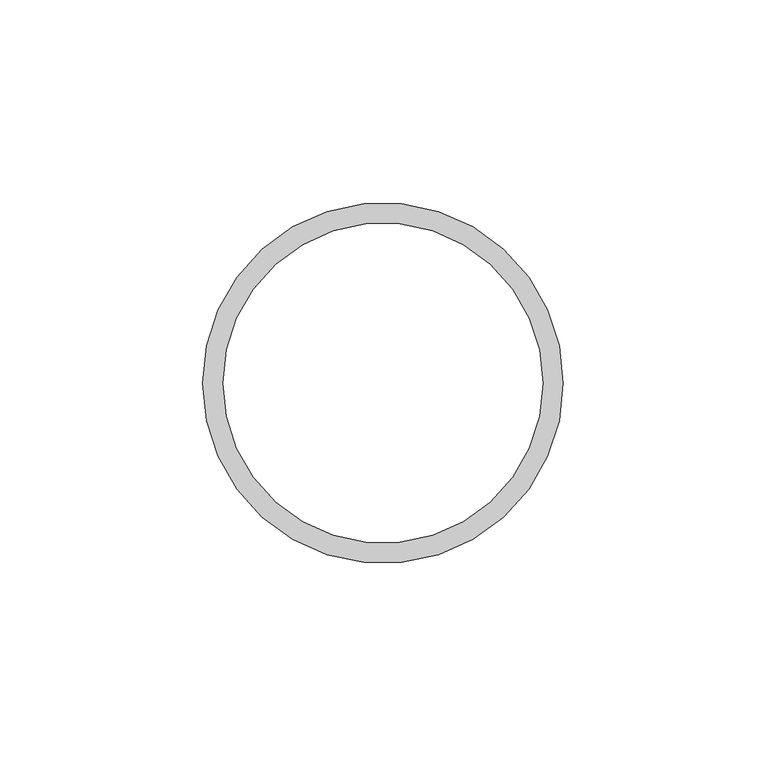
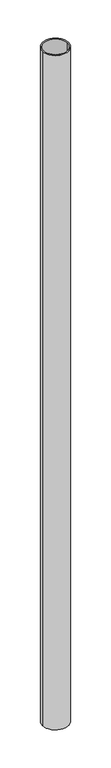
"""IFC4 building model written with IfcOpenShell, lengths in millimetres: column geometry, NLRS_28_SC_TLB_kolom buis_generiek_ISR : ø88.9x5 ."""

import ifcopenshell
import ifcopenshell.guid

model = None  # the IFC model being written
_history = None  # IfcOwnerHistory: only IFC2X3 demands one
_inside = {}  # id of a spatial element -> (the spatial element, [elements in it])
_under = {}  # id of a project, library or spatial element -> (it, [spatial elements below it])
_declared = {}  # id of a project -> (the project, [libraries it declares])
_typed = {}  # id of a type object -> (the type object, [elements of that type])
_made_of = {}  # id of a material, layer set ... -> (it, [elements and type objects made of it])


def new_model(schema):
    """Start an empty IFC model of exactly this schema.

    Asked for "IFC4X3", IfcOpenShell would pick the latest addendum, in which some entities
    have other attributes; the version numbers below select the first issue.
    IFC2X3 requires an IfcOwnerHistory on every rooted entity: one is made here for all.
    """
    global model, _history
    if schema == "IFC4X3":
        model = ifcopenshell.file(schema_version=(4, 3, 0, 0))
    else:
        model = ifcopenshell.file(schema=schema)
    _inside.clear()
    _under.clear()
    _declared.clear()
    _typed.clear()
    _made_of.clear()
    _history = None
    if model.schema == "IFC2X3":
        org = make("IfcOrganization", Name="unknown")
        user = make(
            "IfcPersonAndOrganization",
            ThePerson=make("IfcPerson", FamilyName="unknown"),
            TheOrganization=org,
        )
        app = make(
            "IfcApplication",
            ApplicationDeveloper=org,
            Version="unknown",
            ApplicationFullName="unknown",
            ApplicationIdentifier="unknown",
        )
        _history = make(
            "IfcOwnerHistory",
            OwningUser=user,
            OwningApplication=app,
            ChangeAction="ADDED",
            CreationDate=0,
        )
    return model


def make(cls, **values):
    """One entity of the class cls with the attributes given. An attribute that is None is left unset."""
    return model.create_entity(
        cls, **{name: value for name, value in values.items() if value is not None}
    )


def rooted(cls, **values):
    """An entity with a GlobalId (a new one), such as an element, a storey or a relation."""
    return make(cls, GlobalId=ifcopenshell.guid.new(), OwnerHistory=_history, **values)


def si_unit(unit_type, name, prefix=None):
    """IfcSIUnit, for example si_unit("LENGTHUNIT", "METRE", prefix="MILLI")."""
    return make("IfcSIUnit", UnitType=unit_type, Prefix=prefix, Name=name)


def assignment(units):
    """IfcUnitAssignment: the units of a project."""
    return None if units is None else make("IfcUnitAssignment", Units=units)


def point(xyz):
    """IfcCartesianPoint."""
    return None if xyz is None else make("IfcCartesianPoint", Coordinates=xyz)


def direction(xyz):
    """IfcDirection."""
    return None if xyz is None else make("IfcDirection", DirectionRatios=xyz)


def frame(location, z_axis=None, x_axis=None):
    """IfcAxis2Placement3D, a coordinate frame: its origin and axes. An axis left out is left unset."""
    return make(
        "IfcAxis2Placement3D",
        Location=point(location),
        Axis=direction(z_axis),
        RefDirection=direction(x_axis),
    )


def frame_2d(location, x_axis=None):
    """IfcAxis2Placement2D, a coordinate frame in the plane: its origin and x axis."""
    return make(
        "IfcAxis2Placement2D", Location=point(location), RefDirection=direction(x_axis)
    )


def origin():
    """The frame at (0, 0, 0) with its axes left unset."""
    return frame((0.0, 0.0, 0.0))


def origin_2d():
    """The frame at (0, 0) in the plane with its x axis left unset."""
    return frame_2d((0.0, 0.0))


def place(relative_to, where):
    """IfcLocalPlacement: puts the frame where relative to a parent placement (None: the world)."""
    return make(
        "IfcLocalPlacement", PlacementRelTo=relative_to, RelativePlacement=where
    )


def context(
    kind, dimensions, precision=None, world=None, true_north=None, identifier=None
):
    """IfcGeometricRepresentationContext, for example the 3D "Model" context."""
    return make(
        "IfcGeometricRepresentationContext",
        ContextIdentifier=identifier,
        ContextType=kind,
        CoordinateSpaceDimension=dimensions,
        Precision=precision,
        WorldCoordinateSystem=world,
        TrueNorth=true_north,
    )


def project(units=None, contexts=None):
    """IfcProject with its units and contexts."""
    return rooted(
        "IfcProject",
        Name="project",
        RepresentationContexts=contexts,
        UnitsInContext=assignment(units),
    )


def spatial(cls, under=None, at=None, **own):
    """A site, building, storey or space (cls), placed at a placement, below another one or the project."""
    s = rooted(cls, ObjectPlacement=at, **own)
    if under is not None:
        _under.setdefault(under.id(), (under, []))[1].append(s)
    return s


def circle_curve(where, radius):
    """IfcCircle in the frame where."""
    return make("IfcCircle", Position=where, Radius=radius)


def trimmed(basis, trim1, trim2, sense, master):
    """IfcTrimmedCurve: the piece of a basis curve between two trims."""
    return make(
        "IfcTrimmedCurve",
        BasisCurve=basis,
        Trim1=trim1,
        Trim2=trim2,
        SenseAgreement=sense,
        MasterRepresentation=master,
    )


def segment(curve, same_sense, transition):
    """IfcCompositeCurveSegment."""
    return make(
        "IfcCompositeCurveSegment",
        Transition=transition,
        SameSense=same_sense,
        ParentCurve=curve,
    )


def composite_curve(segments, self_intersect=None):
    """IfcCompositeCurve: segments joined end to end."""
    return make("IfcCompositeCurve", Segments=segments, SelfIntersect=self_intersect)


def outline(outer, holes=None, kind="AREA"):
    """IfcArbitraryClosedProfileDef: a profile drawn as a closed curve; with holes, ...WithVoids."""
    if holes is None:
        return make("IfcArbitraryClosedProfileDef", ProfileType=kind, OuterCurve=outer)
    return make(
        "IfcArbitraryProfileDefWithVoids",
        ProfileType=kind,
        OuterCurve=outer,
        InnerCurves=holes,
    )


def extrude(swept, where, along, depth):
    """IfcExtrudedAreaSolid: the profile swept, set in the frame where, extruded along a direction by depth."""
    return make(
        "IfcExtrudedAreaSolid",
        SweptArea=swept,
        Position=where,
        ExtrudedDirection=direction(along),
        Depth=depth,
    )


def shape(context_of_items, identifier, shape_type, items):
    """IfcShapeRepresentation: the items that make up one representation, for example the "Body"."""
    return make(
        "IfcShapeRepresentation",
        ContextOfItems=context_of_items,
        RepresentationIdentifier=identifier,
        RepresentationType=shape_type,
        Items=items,
    )


def source(mapping_origin, context_of_items, identifier, shape_type, items):
    """IfcRepresentationMap: a shape defined once, which mapped items show again and again."""
    return make(
        "IfcRepresentationMap",
        MappingOrigin=mapping_origin,
        MappedRepresentation=shape(context_of_items, identifier, shape_type, items),
    )


def transform(
    local_origin,
    x_axis=None,
    y_axis=None,
    z_axis=None,
    scale=None,
    scale2=None,
    scale3=None,
    uniform=True,
):
    """IfcCartesianTransformationOperator3D, or its non-uniform kind. x_axis, y_axis, z_axis: its Axis1, 2, 3."""
    if uniform:
        return make(
            "IfcCartesianTransformationOperator3D",
            Axis1=direction(x_axis),
            Axis2=direction(y_axis),
            LocalOrigin=point(local_origin),
            Scale=scale,
            Axis3=direction(z_axis),
        )
    return make(
        "IfcCartesianTransformationOperator3DnonUniform",
        Axis1=direction(x_axis),
        Axis2=direction(y_axis),
        LocalOrigin=point(local_origin),
        Scale=scale,
        Axis3=direction(z_axis),
        Scale2=scale2,
        Scale3=scale3,
    )


def mapped(mapping_source, mapping_target):
    """IfcMappedItem: shows the shape of a source again, moved by a transform."""
    return make(
        "IfcMappedItem", MappingSource=mapping_source, MappingTarget=mapping_target
    )


def made_of(thing, what):
    """Note that an element or type object is made of a material, layer set ...; save() writes the relation."""
    if what is not None:
        _made_of.setdefault(what.id(), (what, []))[1].append(thing)
    return thing


def element(
    cls,
    number,
    at=None,
    inside=None,
    cuts=None,
    type_object=None,
    material=None,
    context=None,
    identifier="Body",
    shape_type=None,
    held_by="IfcProductDefinitionShape",
    body=None,
    shapes=None,
    **own,
):
    """One element of the class cls, such as IfcWall. Its Tag is "e" and its number.

    at: its placement. inside: the storey or other place that contains it. cuts: it is an
    opening in that element (IfcRelVoidsElement). A single representation is given by context,
    identifier, shape_type and body (its items); several are given by shapes. held_by: the class
    of the entity that holds the representations. save() writes the other relations.
    """
    e = rooted(cls, Tag="e%d" % number, ObjectPlacement=at, **own)
    if body is not None:
        shapes = [shape(context, identifier, shape_type, body)]
    if shapes is not None:
        e.Representation = make(held_by, Representations=shapes)
    if inside is not None:
        _inside.setdefault(inside.id(), (inside, []))[1].append(e)
    if cuts is not None:
        rooted(
            "IfcRelVoidsElement", RelatingBuildingElement=cuts, RelatedOpeningElement=e
        )
    if type_object is not None:
        _typed.setdefault(type_object.id(), (type_object, []))[1].append(e)
    return made_of(e, material)


def aggregate(whole, parts):
    """IfcRelAggregates: a whole, such as a stair, and the parts it consists of."""
    return rooted("IfcRelAggregates", RelatingObject=whole, RelatedObjects=parts)


def save(model, path):
    """Write the relations noted so far, then the file.

    IfcRelAggregates (storeys below a building ...), IfcRelContainedInSpatialStructure (elements
    in a storey), IfcRelDefinesByType, IfcRelAssociatesMaterial and IfcRelDeclares: one each for
    every whole, place, type object, material and project.
    """
    for whole, parts in _under.values():
        aggregate(whole, parts)
    for where, things in _inside.values():
        rooted(
            "IfcRelContainedInSpatialStructure",
            RelatedElements=things,
            RelatingStructure=where,
        )
    for kind, things in _typed.values():
        rooted("IfcRelDefinesByType", RelatedObjects=things, RelatingType=kind)
    for what, things in _made_of.values():
        rooted("IfcRelAssociatesMaterial", RelatedObjects=things, RelatingMaterial=what)
    for by, libraries in _declared.values():
        rooted("IfcRelDeclares", RelatingContext=by, RelatedDefinitions=libraries)
    model.write(path)


def column_bf9cf6a6(model_context):
    return source(origin(), model_context, "Body", "SweptSolid", [
        extrude(outline(composite_curve([segment(trimmed(circle_curve(origin_2d(), 44.45), [point((44.45, 0.0))], [point((-44.45, 0.0))], False, "CARTESIAN"), True, "CONTINUOUS"), segment(trimmed(circle_curve(origin_2d(), 44.45), [point((-44.45, 0.0))], [point((44.45, 0.0))], False, "CARTESIAN"), True, "CONTINUOUS")], self_intersect=False), holes=[composite_curve([segment(trimmed(circle_curve(origin_2d(), 39.45), [point((39.45, 0.0))], [point((-39.45, 0.0))], True, "CARTESIAN"), True, "CONTINUOUS"), segment(trimmed(circle_curve(origin_2d(), 39.45), [point((-39.45, 0.0))], [point((39.45, 0.0))], True, "CARTESIAN"), True, "CONTINUOUS")], self_intersect=False)]), frame((0.0, 0.0, 3500.0), z_axis=(0.0, 0.0, 1.0), x_axis=(1.0, 0.0, 0.0)), (0.0, 0.0, 1.0), 2400.0),
    ])


if __name__ == "__main__":
    model = new_model("IFC4")
    model_context = context("Model", 3, world=origin())
    ifc_project = project(units=[si_unit("LENGTHUNIT", "METRE", prefix="MILLI")], contexts=[model_context])
    site = spatial("IfcSite", under=ifc_project)
    building = spatial("IfcBuilding", under=site)
    placement = place(None, origin())
    column_shape = column_bf9cf6a6(model_context)
    element("IfcColumn", 1, ObjectType="NLRS_28_SC_TLB_kolom buis_generiek_ISR : ø88.9x5 ", at=placement, inside=building, context=model_context, shape_type="MappedRepresentation", body=[
        mapped(column_shape, transform((0.0, 0.0, 0.0), x_axis=(1.0, 0.0, 0.0), y_axis=(0.0, 1.0, 0.0), z_axis=(0.0, 0.0, 1.0))),
    ])
    save(model, "model.ifc")
